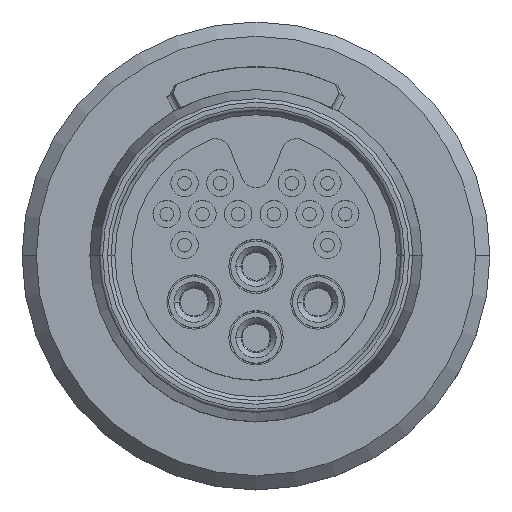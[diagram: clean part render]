
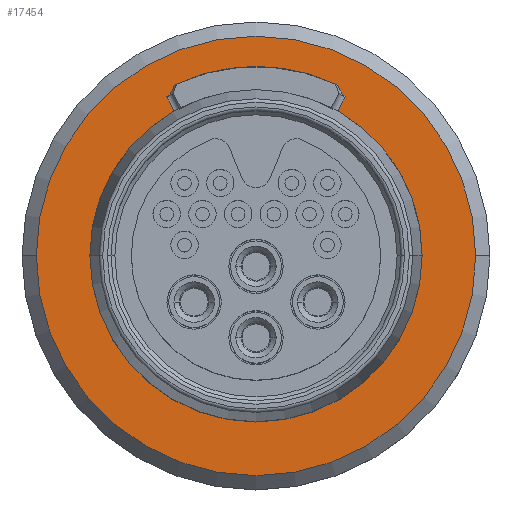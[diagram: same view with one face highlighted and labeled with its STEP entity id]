
A CAD part, top view. The second image highlights one B-rep face of the part: STEP entity #17454.
In plain terms, the highlighted planar face has unit normal (0, 0, 1).
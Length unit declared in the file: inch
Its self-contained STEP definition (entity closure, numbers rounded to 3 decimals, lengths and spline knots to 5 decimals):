
#218 = EDGE_LOOP ( 'NONE', ( #15869, #668 ) ) ;
#495 = EDGE_CURVE ( 'NONE', #6511, #6922, #14721, .T. ) ;
#527 = ORIENTED_EDGE ( 'NONE', *, *, #2682, .T. ) ;
#668 = ORIENTED_EDGE ( 'NONE', *, *, #20763, .T. ) ;
#1346 = ORIENTED_EDGE ( 'NONE', *, *, #16702, .T. ) ;
#1437 = DIRECTION ( 'NONE',  ( 0., 0., 1. ) ) ;
#1661 = DIRECTION ( 'NONE',  ( 1., 0., 0. ) ) ;
#1784 = DIRECTION ( 'NONE',  ( -0.454, -0.891, 0. ) ) ;
#2036 = PLANE ( 'NONE',  #9311 ) ;
#2229 = CARTESIAN_POINT ( 'NONE',  ( -0.1141, 0.23918, 0.048 ) ) ;
#2281 = AXIS2_PLACEMENT_3D ( 'NONE', #16678, #15276, #20137 ) ;
#2458 = AXIS2_PLACEMENT_3D ( 'NONE', #18840, #14108, #20479 ) ;
#2597 = CARTESIAN_POINT ( 'NONE',  ( -0.12467, 0.22265, 0.048 ) ) ;
#2682 = EDGE_CURVE ( 'NONE', #3406, #7287, #11667, .T. ) ;
#3406 = VERTEX_POINT ( 'NONE', #2597 ) ;
#3587 = DIRECTION ( 'NONE',  ( 0., 0., 1. ) ) ;
#3905 = CARTESIAN_POINT ( 'NONE',  ( 0., 0., 0.048 ) ) ;
#4114 = ORIENTED_EDGE ( 'NONE', *, *, #495, .F. ) ;
#4202 = CARTESIAN_POINT ( 'NONE',  ( -0.12145, 0.2245, 0.048 ) ) ;
#4310 = AXIS2_PLACEMENT_3D ( 'NONE', #3905, #5385, #7102 ) ;
#4382 = CARTESIAN_POINT ( 'NONE',  ( -0.3075, 0., 0.048 ) ) ;
#5326 = VERTEX_POINT ( 'NONE', #7898 ) ;
#5385 = DIRECTION ( 'NONE',  ( 0., 0., 1. ) ) ;
#5574 = CIRCLE ( 'NONE', #2281, 0.3075 ) ;
#6221 = CARTESIAN_POINT ( 'NONE',  ( 0., 0., 0.048 ) ) ;
#6511 = VERTEX_POINT ( 'NONE', #15321 ) ;
#6921 = CARTESIAN_POINT ( 'NONE',  ( 0.12143, 0.22454, 0.048 ) ) ;
#6922 = VERTEX_POINT ( 'NONE', #20497 ) ;
#7102 = DIRECTION ( 'NONE',  ( -1., 0., 0. ) ) ;
#7212 = FACE_OUTER_BOUND ( 'NONE', #218, .T. ) ;
#7224 = EDGE_CURVE ( 'NONE', #5326, #7287, #15784, .T. ) ;
#7287 = VERTEX_POINT ( 'NONE', #2229 ) ;
#7370 = CARTESIAN_POINT ( 'NONE',  ( -0.11437, 0.20243, 0.048 ) ) ;
#7493 = CARTESIAN_POINT ( 'NONE',  ( 0.3075, 0., 0.048 ) ) ;
#7834 = DIRECTION ( 'NONE',  ( 0., 0., 1. ) ) ;
#7898 = CARTESIAN_POINT ( 'NONE',  ( 0.11408, 0.23919, 0.048 ) ) ;
#8144 = EDGE_CURVE ( 'NONE', #17594, #3406, #15752, .T. ) ;
#8426 = CARTESIAN_POINT ( 'NONE',  ( -0.2325, 0., 0.048 ) ) ;
#8745 = LINE ( 'NONE', #19427, #16779 ) ;
#9070 = EDGE_LOOP ( 'NONE', ( #10567, #14051, #527, #17520, #12676, #1346, #4114, #17218 ) ) ;
#9197 = EDGE_CURVE ( 'NONE', #5326, #12441, #20187, .T. ) ;
#9311 = AXIS2_PLACEMENT_3D ( 'NONE', #15032, #3587, #13348 ) ;
#9332 = AXIS2_PLACEMENT_3D ( 'NONE', #17525, #7834, #19065 ) ;
#9822 = EDGE_CURVE ( 'NONE', #15035, #6511, #13955, .T. ) ;
#10567 = ORIENTED_EDGE ( 'NONE', *, *, #18150, .F. ) ;
#11062 = DIRECTION ( 'NONE',  ( 1., 0., 0. ) ) ;
#11098 = AXIS2_PLACEMENT_3D ( 'NONE', #12607, #1437, #1661 ) ;
#11667 = B_SPLINE_CURVE_WITH_KNOTS ( 'NONE', 3,
 ( #12355, #4202, #13970, #13842 ),
 .UNSPECIFIED., .F., .F.,
 ( 4, 4 ),
 ( 0., 1. ),
 .UNSPECIFIED. ) ;
#12251 = VERTEX_POINT ( 'NONE', #7493 ) ;
#12355 = CARTESIAN_POINT ( 'NONE',  ( -0.12467, 0.22265, 0.048 ) ) ;
#12441 = VERTEX_POINT ( 'NONE', #15157 ) ;
#12607 = CARTESIAN_POINT ( 'NONE',  ( 0., 0., 0.048 ) ) ;
#12676 = ORIENTED_EDGE ( 'NONE', *, *, #9197, .T. ) ;
#13348 = DIRECTION ( 'NONE',  ( 1., 0., 0. ) ) ;
#13437 = CARTESIAN_POINT ( 'NONE',  ( 0.12467, 0.22265, 0.048 ) ) ;
#13673 = EDGE_CURVE ( 'NONE', #20588, #12251, #5574, .T. ) ;
#13842 = CARTESIAN_POINT ( 'NONE',  ( -0.1141, 0.23918, 0.048 ) ) ;
#13955 = CIRCLE ( 'NONE', #9332, 0.2325 ) ;
#13970 = CARTESIAN_POINT ( 'NONE',  ( -0.11793, 0.23001, 0.048 ) ) ;
#14051 = ORIENTED_EDGE ( 'NONE', *, *, #8144, .T. ) ;
#14108 = DIRECTION ( 'NONE',  ( 0., 0., 1. ) ) ;
#14721 = CIRCLE ( 'NONE', #18411, 0.2325 ) ;
#15032 = CARTESIAN_POINT ( 'NONE',  ( 0., 0., 0.048 ) ) ;
#15035 = VERTEX_POINT ( 'NONE', #8426 ) ;
#15157 = CARTESIAN_POINT ( 'NONE',  ( 0.12467, 0.22265, 0.048 ) ) ;
#15276 = DIRECTION ( 'NONE',  ( 0., 0., 1. ) ) ;
#15321 = CARTESIAN_POINT ( 'NONE',  ( 0.2325, 0., 0.048 ) ) ;
#15752 = LINE ( 'NONE', #20006, #18292 ) ;
#15784 = CIRCLE ( 'NONE', #4310, 0.265 ) ;
#15869 = ORIENTED_EDGE ( 'NONE', *, *, #13673, .T. ) ;
#15962 = CIRCLE ( 'NONE', #2458, 0.2325 ) ;
#16404 = CARTESIAN_POINT ( 'NONE',  ( 0.11408, 0.23919, 0.048 ) ) ;
#16604 = CARTESIAN_POINT ( 'NONE',  ( 0.1179, 0.23006, 0.048 ) ) ;
#16678 = CARTESIAN_POINT ( 'NONE',  ( 0., 0., 0.048 ) ) ;
#16702 = EDGE_CURVE ( 'NONE', #12441, #6922, #8745, .T. ) ;
#16761 = FACE_BOUND ( 'NONE', #9070, .T. ) ;
#16779 = VECTOR ( 'NONE', #1784, 39.37008 ) ;
#17218 = ORIENTED_EDGE ( 'NONE', *, *, #9822, .F. ) ;
#17454 = ADVANCED_FACE ( 'NONE', ( #7212, #16761 ), #2036, .T. ) ;
#17520 = ORIENTED_EDGE ( 'NONE', *, *, #7224, .F. ) ;
#17525 = CARTESIAN_POINT ( 'NONE',  ( 0., 0., 0.048 ) ) ;
#17594 = VERTEX_POINT ( 'NONE', #7370 ) ;
#18150 = EDGE_CURVE ( 'NONE', #17594, #15035, #15962, .T. ) ;
#18292 = VECTOR ( 'NONE', #20078, 39.37008 ) ;
#18411 = AXIS2_PLACEMENT_3D ( 'NONE', #6221, #19157, #11062 ) ;
#18840 = CARTESIAN_POINT ( 'NONE',  ( 0., 0., 0.048 ) ) ;
#19065 = DIRECTION ( 'NONE',  ( 1., 0., 0. ) ) ;
#19157 = DIRECTION ( 'NONE',  ( 0., 0., 1. ) ) ;
#19427 = CARTESIAN_POINT ( 'NONE',  ( 0.00891, -0.00454, 0.048 ) ) ;
#20006 = CARTESIAN_POINT ( 'NONE',  ( -0.00891, -0.00454, 0.048 ) ) ;
#20078 = DIRECTION ( 'NONE',  ( -0.454, 0.891, 0. ) ) ;
#20137 = DIRECTION ( 'NONE',  ( 1., 0., 0. ) ) ;
#20187 = B_SPLINE_CURVE_WITH_KNOTS ( 'NONE', 3,
 ( #16404, #16604, #6921, #13437 ),
 .UNSPECIFIED., .F., .F.,
 ( 4, 4 ),
 ( 0., 1. ),
 .UNSPECIFIED. ) ;
#20479 = DIRECTION ( 'NONE',  ( 1., 0., 0. ) ) ;
#20497 = CARTESIAN_POINT ( 'NONE',  ( 0.11437, 0.20243, 0.048 ) ) ;
#20588 = VERTEX_POINT ( 'NONE', #4382 ) ;
#20718 = CIRCLE ( 'NONE', #11098, 0.3075 ) ;
#20763 = EDGE_CURVE ( 'NONE', #12251, #20588, #20718, .T. ) ;
